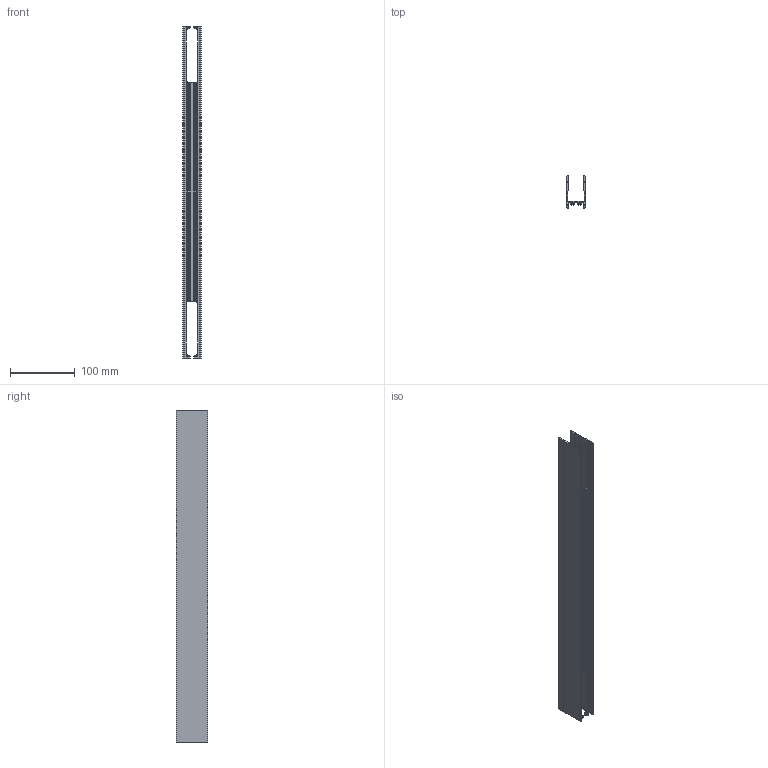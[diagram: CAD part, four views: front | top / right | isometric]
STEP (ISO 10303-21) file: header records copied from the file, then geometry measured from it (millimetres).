
FILE_DESCRIPTION(/* description */ ('Unknown'),/* implementation_level */ '2;1');
FILE_NAME(/* name */ '98467',/* time_stamp */ '2023-02-07T04:42:22-05:00',/* author */ ('Unknown'),/* organization */ ('Unknown'),/* preprocessor_version */ 'ST-DEVELOPER v18.1',/* originating_system */ 'Solid Edge',/* authorisation */ 'Unknown');
FILE_SCHEMA (('AUTOMOTIVE_DESIGN {1 0 10303 214 3 1 1}'));
Length unit declared in the file: millimetre
Products named in the file (1): L-PR020
Bounding box: 28 x 49 x 513 mm (x, y, z)
Volume: 111768.2 mm3; surface area: 131712.5 mm2
Topology: 1 solids, 1 shells, 148 faces, 442 edges, 296 vertices
Faces by surface type: cylinder 96, plane 52
Entity records: 5222 total; most frequent: CARTESIAN_POINT 1221, ORIENTED_EDGE 884, DIRECTION 800, EDGE_CURVE 442, VERTEX_POINT 296, AXIS2_PLACEMENT_3D 289, LINE 222, VECTOR 222
